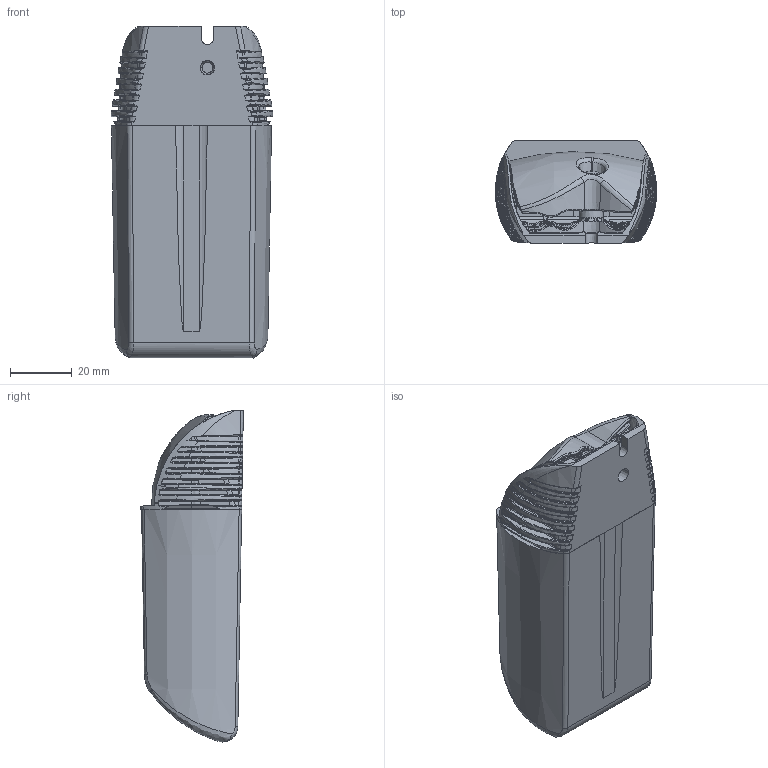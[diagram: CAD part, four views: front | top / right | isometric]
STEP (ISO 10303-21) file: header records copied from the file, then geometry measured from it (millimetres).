
FILE_DESCRIPTION (( 'STEP AP203' ), '1' );
FILE_NAME ('HTM 70-assembly_neu.STEP', '2008-06-19T07:25:20', ( 'Kontec' ), ( '' ), 'SwSTEP 2.0', 'SolidWorks 2007', '' );
FILE_SCHEMA (( 'CONFIG_CONTROL_DESIGN' ));
Length unit declared in the file: millimetre
Products named in the file (1): HTM 70-assembly_neu
Bounding box: 52.45 x 33.37 x 107.83 mm (x, y, z)
Volume: 119312.9 mm3; surface area: 34109.7 mm2
Topology: 4 solids, 4 shells, 3782 faces, 9472 edges, 5768 vertices
Faces by surface type: bspline 2353, plane 946, cylinder 291, cone 192
Entity records: 256498 total; most frequent: CARTESIAN_POINT 189315, ORIENTED_EDGE 18934, EDGE_CURVE 9467, DIRECTION 6737, VERTEX_POINT 5768, B_SPLINE_CURVE_WITH_KNOTS 4780, EDGE_LOOP 3875, FACE_OUTER_BOUND 3782
